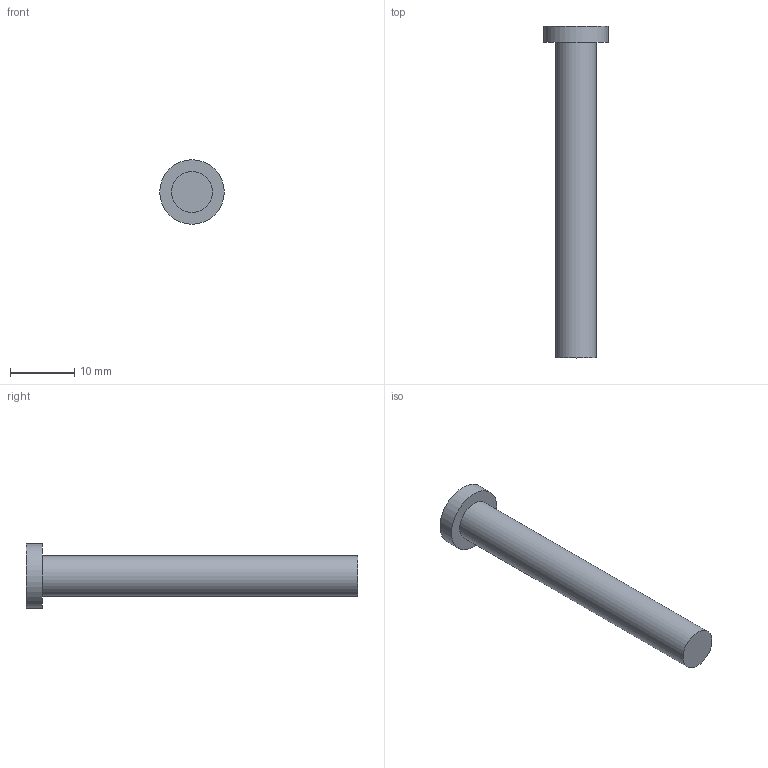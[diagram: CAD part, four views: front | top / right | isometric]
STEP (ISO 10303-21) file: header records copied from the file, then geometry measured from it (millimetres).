
FILE_DESCRIPTION(('Open CASCADE Model'),'2;1');
FILE_NAME('Open CASCADE Shape Model','2026-10-16T03:24:49',('Author'),( 'Open CASCADE'),'Open CASCADE STEP processor 7.9','Open CASCADE 7.9' ,'Unknown');
FILE_SCHEMA(('AUTOMOTIVE_DESIGN { 1 0 10303 214 1 1 1 1 }'));
Length unit declared in the file: millimetre
Products named in the file (1): Open CASCADE STEP translator 7.9 2
Bounding box: 10 x 51.5 x 10 mm (x, y, z)
Volume: 1748.1 mm3; surface area: 1213.1 mm2
Topology: 1 solids, 1 shells, 5 faces, 6 edges, 4 vertices
Faces by surface type: plane 3, cylinder 2
Full cylindrical faces by diameter (mm): 6.35 x1, 10 x1
Entity records: 192 total; most frequent: DIRECTION 34, CARTESIAN_POINT 28, ORIENTED_EDGE 12, PCURVE 12, DEFINITIONAL_REPRESENTATION 12, AXIS2_PLACEMENT_3D 10, LINE 10, VECTOR 10
